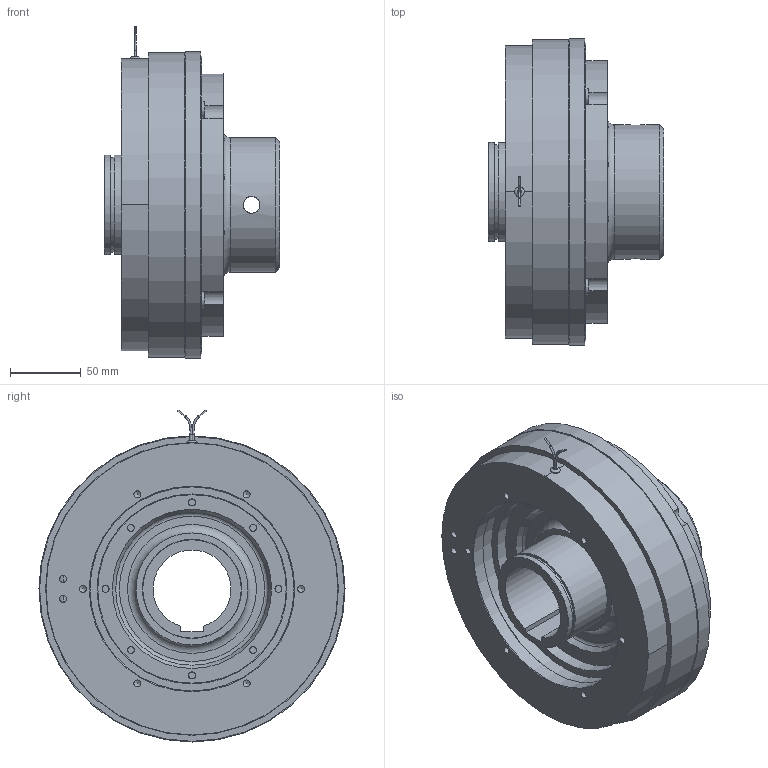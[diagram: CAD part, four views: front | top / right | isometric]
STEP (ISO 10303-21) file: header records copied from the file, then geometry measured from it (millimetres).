
FILE_DESCRIPTION(/* description */ (''),/* implementation_level */ '2;1');
FILE_NAME(/* name */ 'X:\INVENTOR\DISEGNI\08_Freni_Friz_Elettmag_Monodisco\08_26 EMSL_DF\EMSL_DF STEP\08_26_210_22 EMSL210_DF-BM-ME@STEP.stp',/* time_stamp */ '2018-04-24T09:01:54+02:00',/* author */ ('stefano'),/* organization */ (''),/* preprocessor_version */ 'ST-DEVELOPER v17',/* originating_system */ 'Autodesk Inventor 2018',/* authorisation */ '');
FILE_SCHEMA (('AUTOMOTIVE_DESIGN { 1 0 10303 214 3 1 1 }'));
Length unit declared in the file: millimetre
Products named in the file (1): 08_26_210_22 EMSL210_DF-BM-ME_Substitute_1
Bounding box: 124 x 216 x 234.22 mm (x, y, z)
Volume: 1679784.5 mm3; surface area: 368047.9 mm2
Topology: 3 solids, 3 shells, 500 faces, 1479 edges, 979 vertices
Faces by surface type: cylinder 230, plane 175, cone 75, torus 18, bspline 2
Full cylindrical faces by diameter (mm): 1.154 x2, 1.5 x1, 2 x8, 4.917 x16, 6.647 x4, 7 x8, 10 x8, 11 x8, 11.835 x2, 13 x16, 38 x8, 67 x1, 70 x2, 95 x1, 110 x1, 133 x2, 134 x2, 136 x1, 144 x1, 144.5 x1, 145 x1, 154.5 x1, 198.5 x1, 206.5 x1, 210 x1, 215 x1, 216 x1
Entity records: 18037 total; most frequent: CARTESIAN_POINT 3651, DIRECTION 3196, ORIENTED_EDGE 2908, EDGE_CURVE 1454, AXIS2_PLACEMENT_3D 1358, VERTEX_POINT 979, CIRCLE 859, EDGE_LOOP 629
